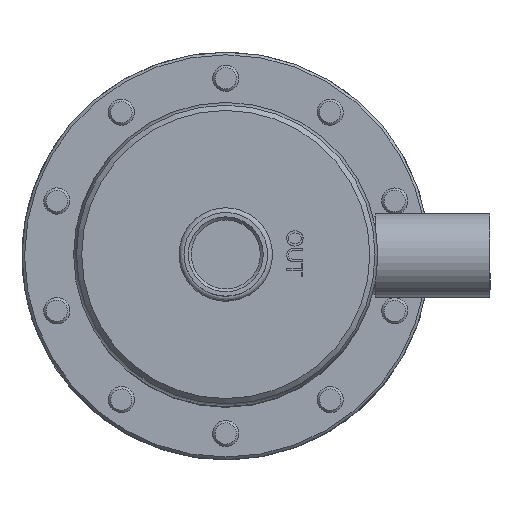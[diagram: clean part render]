
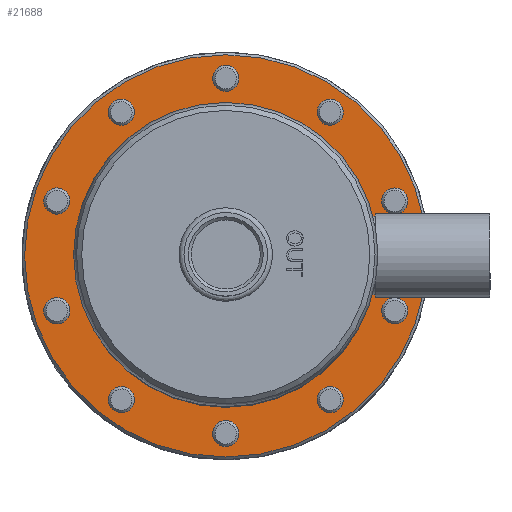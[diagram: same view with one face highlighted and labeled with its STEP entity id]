
A CAD part, top view. The second image highlights one B-rep face of the part: STEP entity #21688.
In plain terms, the highlighted planar face has unit normal (0, 0, 1).
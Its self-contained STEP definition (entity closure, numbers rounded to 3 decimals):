
#1160=FACE_BOUND('',#4729,.T.);
#1161=FACE_BOUND('',#4730,.T.);
#1162=FACE_BOUND('',#4731,.T.);
#1163=FACE_BOUND('',#4732,.T.);
#1164=FACE_BOUND('',#4733,.T.);
#1165=FACE_BOUND('',#4734,.T.);
#1166=FACE_BOUND('',#4735,.T.);
#1167=FACE_BOUND('',#4736,.T.);
#1168=FACE_BOUND('',#4737,.T.);
#1169=FACE_BOUND('',#4738,.T.);
#1170=FACE_BOUND('',#4739,.T.);
#3195=FACE_OUTER_BOUND('',#4728,.T.);
#4728=EDGE_LOOP('',(#19686));
#4729=EDGE_LOOP('',(#19687));
#4730=EDGE_LOOP('',(#19688));
#4731=EDGE_LOOP('',(#19689));
#4732=EDGE_LOOP('',(#19690));
#4733=EDGE_LOOP('',(#19691));
#4734=EDGE_LOOP('',(#19692));
#4735=EDGE_LOOP('',(#19693));
#4736=EDGE_LOOP('',(#19694));
#4737=EDGE_LOOP('',(#19695));
#4738=EDGE_LOOP('',(#19696));
#4739=EDGE_LOOP('',(#19697));
#5100=CIRCLE('',#23091,57.987);
#5130=CIRCLE('',#23130,5.);
#5151=CIRCLE('',#23178,5.);
#5172=CIRCLE('',#23226,5.);
#5193=CIRCLE('',#23274,5.);
#5214=CIRCLE('',#23322,5.);
#5235=CIRCLE('',#23370,5.);
#5256=CIRCLE('',#23418,5.);
#5277=CIRCLE('',#23466,5.);
#5298=CIRCLE('',#23514,5.);
#5343=CIRCLE('',#23615,5.);
#5359=CIRCLE('',#23656,77.);
#9957=VERTEX_POINT('',#42691);
#9985=VERTEX_POINT('',#42758);
#10016=VERTEX_POINT('',#42885);
#10047=VERTEX_POINT('',#43012);
#10078=VERTEX_POINT('',#43139);
#10109=VERTEX_POINT('',#43266);
#10140=VERTEX_POINT('',#43393);
#10171=VERTEX_POINT('',#43520);
#10202=VERTEX_POINT('',#43647);
#10233=VERTEX_POINT('',#43774);
#10287=VERTEX_POINT('',#43977);
#10315=VERTEX_POINT('',#44094);
#12942=EDGE_CURVE('',#9957,#9957,#5100,.T.);
#12972=EDGE_CURVE('',#9985,#9985,#5130,.T.);
#13017=EDGE_CURVE('',#10016,#10016,#5151,.T.);
#13062=EDGE_CURVE('',#10047,#10047,#5172,.T.);
#13107=EDGE_CURVE('',#10078,#10078,#5193,.T.);
#13152=EDGE_CURVE('',#10109,#10109,#5214,.T.);
#13197=EDGE_CURVE('',#10140,#10140,#5235,.T.);
#13242=EDGE_CURVE('',#10171,#10171,#5256,.T.);
#13287=EDGE_CURVE('',#10202,#10202,#5277,.T.);
#13332=EDGE_CURVE('',#10233,#10233,#5298,.T.);
#13401=EDGE_CURVE('',#10287,#10287,#5343,.T.);
#13441=EDGE_CURVE('',#10315,#10315,#5359,.T.);
#19686=ORIENTED_EDGE('',*,*,#13441,.F.);
#19687=ORIENTED_EDGE('',*,*,#12942,.T.);
#19688=ORIENTED_EDGE('',*,*,#12972,.T.);
#19689=ORIENTED_EDGE('',*,*,#13017,.T.);
#19690=ORIENTED_EDGE('',*,*,#13062,.T.);
#19691=ORIENTED_EDGE('',*,*,#13107,.T.);
#19692=ORIENTED_EDGE('',*,*,#13152,.T.);
#19693=ORIENTED_EDGE('',*,*,#13197,.T.);
#19694=ORIENTED_EDGE('',*,*,#13242,.T.);
#19695=ORIENTED_EDGE('',*,*,#13287,.T.);
#19696=ORIENTED_EDGE('',*,*,#13332,.T.);
#19697=ORIENTED_EDGE('',*,*,#13401,.T.);
#20418=PLANE('',#23657);
#21688=ADVANCED_FACE('',(#3195,#1160,#1161,#1162,#1163,#1164,#1165,#1166,
#1167,#1168,#1169,#1170),#20418,.F.);
#23091=AXIS2_PLACEMENT_3D('',#42692,#27764,#27765);
#23130=AXIS2_PLACEMENT_3D('',#42759,#27842,#27843);
#23178=AXIS2_PLACEMENT_3D('',#42886,#27950,#27951);
#23226=AXIS2_PLACEMENT_3D('',#43013,#28058,#28059);
#23274=AXIS2_PLACEMENT_3D('',#43140,#28166,#28167);
#23322=AXIS2_PLACEMENT_3D('',#43267,#28274,#28275);
#23370=AXIS2_PLACEMENT_3D('',#43394,#28382,#28383);
#23418=AXIS2_PLACEMENT_3D('',#43521,#28490,#28491);
#23466=AXIS2_PLACEMENT_3D('',#43648,#28598,#28599);
#23514=AXIS2_PLACEMENT_3D('',#43775,#28706,#28707);
#23615=AXIS2_PLACEMENT_3D('',#43978,#28920,#28921);
#23656=AXIS2_PLACEMENT_3D('',#44095,#29014,#29015);
#23657=AXIS2_PLACEMENT_3D('',#44096,#29016,#29017);
#27764=DIRECTION('center_axis',(0.,0.,
-1.));
#27765=DIRECTION('ref_axis',(-1.,0.,0.));
#27842=DIRECTION('center_axis',(0.,0.,
-1.));
#27843=DIRECTION('ref_axis',(0.588,0.809,0.));
#27950=DIRECTION('center_axis',(0.,0.,
-1.));
#27951=DIRECTION('ref_axis',(0.951,0.309,0.));
#28058=DIRECTION('center_axis',(0.,0.,
-1.));
#28059=DIRECTION('ref_axis',(0.951,-0.309,0.));
#28166=DIRECTION('center_axis',(0.,0.,
-1.));
#28167=DIRECTION('ref_axis',(0.588,-0.809,0.));
#28274=DIRECTION('center_axis',(0.,0.,
-1.));
#28275=DIRECTION('ref_axis',(0.,-1.,0.));
#28382=DIRECTION('center_axis',(0.,0.,
-1.));
#28383=DIRECTION('ref_axis',(-0.588,-0.809,0.));
#28490=DIRECTION('center_axis',(0.,0.,
-1.));
#28491=DIRECTION('ref_axis',(-0.951,-0.309,0.));
#28598=DIRECTION('center_axis',(0.,0.,
-1.));
#28599=DIRECTION('ref_axis',(-0.951,0.309,0.));
#28706=DIRECTION('center_axis',(0.,0.,
-1.));
#28707=DIRECTION('ref_axis',(-0.588,0.809,0.));
#28920=DIRECTION('center_axis',(0.,0.,
-1.));
#28921=DIRECTION('ref_axis',(0.,1.,0.));
#29014=DIRECTION('center_axis',(0.,0.,
-1.));
#29015=DIRECTION('ref_axis',(0.,-1.,0.));
#29016=DIRECTION('center_axis',(0.,0.,
-1.));
#29017=DIRECTION('ref_axis',(0.,-1.,0.));
#42691=CARTESIAN_POINT('',(-57.987,0.,29.));
#42692=CARTESIAN_POINT('Origin',(0.,0.,
29.));
#42758=CARTESIAN_POINT('',(61.733,-25.058,29.));
#42759=CARTESIAN_POINT('Origin',(64.672,-21.013,29.));
#42885=CARTESIAN_POINT('',(35.214,-56.558,29.));
#42886=CARTESIAN_POINT('Origin',(39.969,-55.013,29.));
#43012=CARTESIAN_POINT('',(-4.755,-66.455,29.));
#43013=CARTESIAN_POINT('Origin',(0.,-68.,
29.));
#43139=CARTESIAN_POINT('',(-42.908,-50.968,29.));
#43140=CARTESIAN_POINT('Origin',(-39.969,-55.013,29.));
#43266=CARTESIAN_POINT('',(-64.672,-16.013,29.));
#43267=CARTESIAN_POINT('Origin',(-64.672,-21.013,29.));
#43393=CARTESIAN_POINT('',(-61.733,25.058,29.));
#43394=CARTESIAN_POINT('Origin',(-64.672,21.013,29.));
#43520=CARTESIAN_POINT('',(-35.214,56.558,29.));
#43521=CARTESIAN_POINT('Origin',(-39.969,55.013,29.));
#43647=CARTESIAN_POINT('',(4.755,66.455,29.));
#43648=CARTESIAN_POINT('Origin',(0.,68.,
29.));
#43774=CARTESIAN_POINT('',(42.908,50.968,29.));
#43775=CARTESIAN_POINT('Origin',(39.969,55.013,29.));
#43977=CARTESIAN_POINT('',(64.672,16.013,29.));
#43978=CARTESIAN_POINT('Origin',(64.672,21.013,29.));
#44094=CARTESIAN_POINT('',(0.,77.,29.));
#44095=CARTESIAN_POINT('Origin',(0.,0.,
29.));
#44096=CARTESIAN_POINT('Origin',(0.,0.,
29.));
